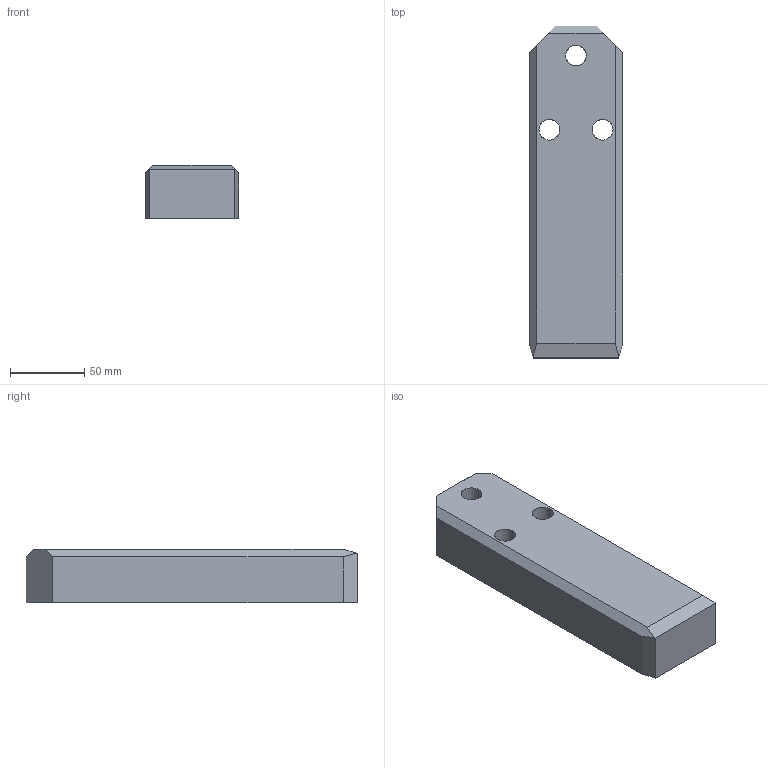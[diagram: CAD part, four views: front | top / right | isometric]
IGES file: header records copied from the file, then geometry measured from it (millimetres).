
Start section: START RECORD GO HERE.
Global section: file name: A927-63X224X36.igs; native system: DASSAULT SYSTEMES CATIA V5 R20 - www.3ds.com; preprocessor: CATIA Version 5 Release 20 ; author: Utente; organization: NB04-ASUS; date: 20200408.202721; units: millimetre
Bounding box: 63 x 224 x 36 mm (x, y, z)
Surface area: 50317 mm2 (no closed solid volume)
Topology: 0 solids, 0 shells, 35 faces, 168 edges, 168 vertices
Faces by surface type: revolution 18, extrusion 17
